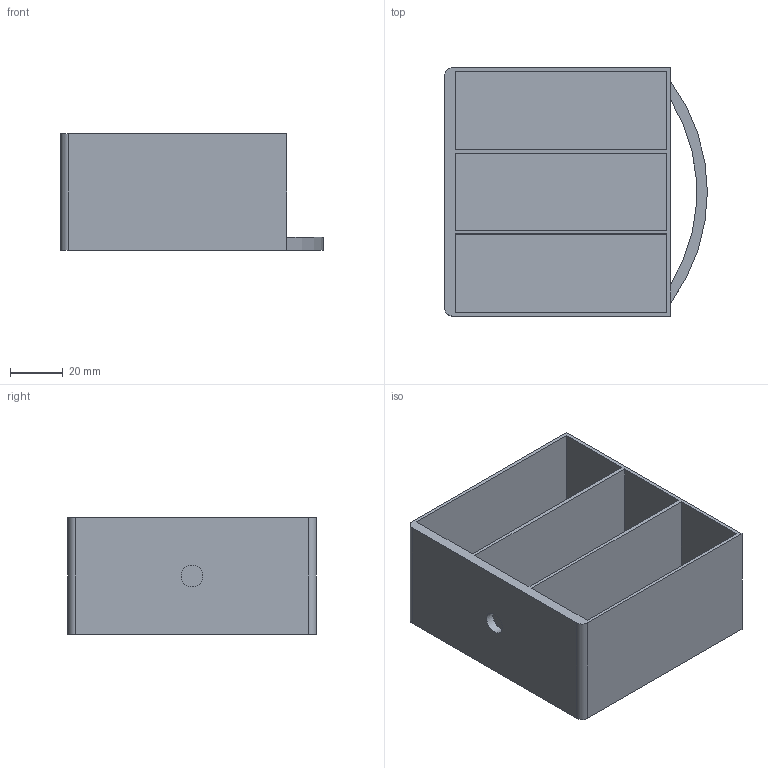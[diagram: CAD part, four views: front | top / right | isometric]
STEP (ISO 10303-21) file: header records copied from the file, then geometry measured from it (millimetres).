
FILE_DESCRIPTION(/* description */ (''),/* implementation_level */ '2;1');
FILE_NAME(/* name */ 'C:/Users/pet3r/Desktop/3D/MOJE/My Drawers/STEP/Drawer 2x2 3-slot.step',/* time_stamp */ '2018-03-31T21:34:21+02:00',/* author */ (''),/* organization */ (''),/* preprocessor_version */ 'ST-DEVELOPER v16.13',/* originating_system */ 'Autodesk Translation Framework v6.5.0.72',/* authorisation */ '');
FILE_SCHEMA (('AUTOMOTIVE_DESIGN { 1 0 10303 214 3 1 1 }'));
Length unit declared in the file: millimetre
Products named in the file (1): Drawer 2x2 3-slot
Bounding box: 100 x 94.5 x 44.5 mm (x, y, z)
Volume: 50545.9 mm3; surface area: 62527.8 mm2
Topology: 1 solids, 1 shells, 28 faces, 69 edges, 46 vertices
Faces by surface type: plane 23, cylinder 5
Full cylindrical faces by diameter (mm): 8.3 x1
Entity records: 867 total; most frequent: CARTESIAN_POINT 144, ORIENTED_EDGE 138, DIRECTION 137, EDGE_CURVE 69, LINE 59, VECTOR 59, VERTEX_POINT 46, AXIS2_PLACEMENT_3D 39
